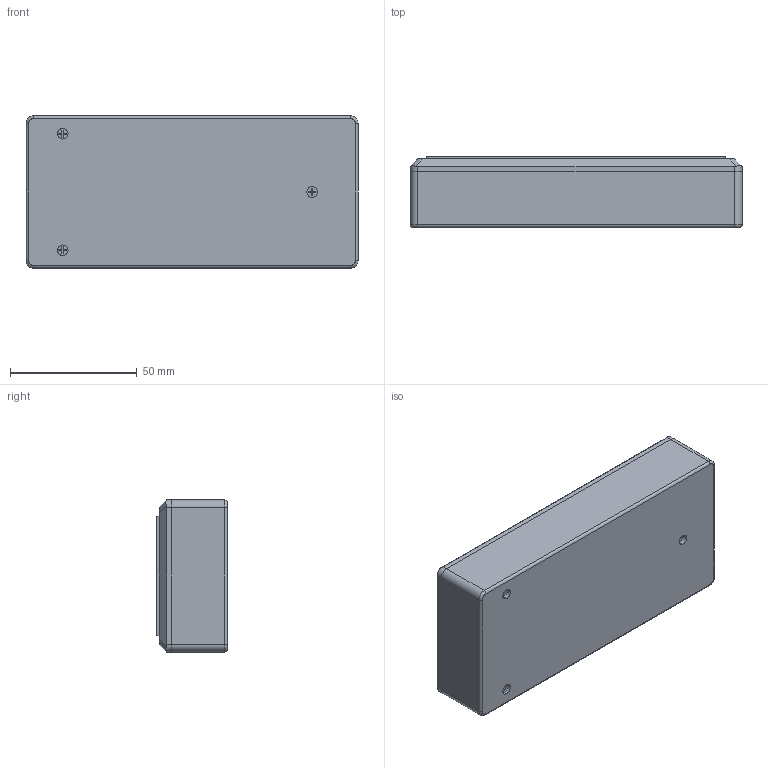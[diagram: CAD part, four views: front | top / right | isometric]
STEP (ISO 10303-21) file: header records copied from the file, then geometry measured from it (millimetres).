
FILE_DESCRIPTION (( 'STEP AP214' ), '1' );
FILE_NAME ('Conjunt PP8.STEP', '2017-08-03T08:51:44', ( 'aaa' ), ( '' ), 'SwSTEP 2.0', 'SolidWorks 2013', '' );
FILE_SCHEMA (( 'AUTOMOTIVE_DESIGN' ));
Length unit declared in the file: millimetre
Products named in the file (5): Conjunt PP8; Cargol 2,1x6,5 PP8; Cargol 2,2x16 PP8; Tapa PP8; Cuerpo PP8
Assembly tree (7 placements, depth 2):
  Conjunt PP8
    Cuerpo PP8
    Tapa PP8
    Cargol 2,2x16 PP8  x3
    Cargol 2,1x6,5 PP8  x2
Bounding box: 131 x 28 x 60 mm (x, y, z)
Volume: 53644 mm3; surface area: 53292 mm2
Topology: 7 solids, 7 shells, 673 faces, 1452 edges, 809 vertices
Faces by surface type: cone 454, plane 151, cylinder 60, torus 8
Entity records: 9320 total; most frequent: DIRECTION 1686, CARTESIAN_POINT 1573, ORIENTED_EDGE 1484, EDGE_CURVE 742, AXIS2_PLACEMENT_3D 615, LINE 456, VECTOR 456, VERTEX_POINT 438
